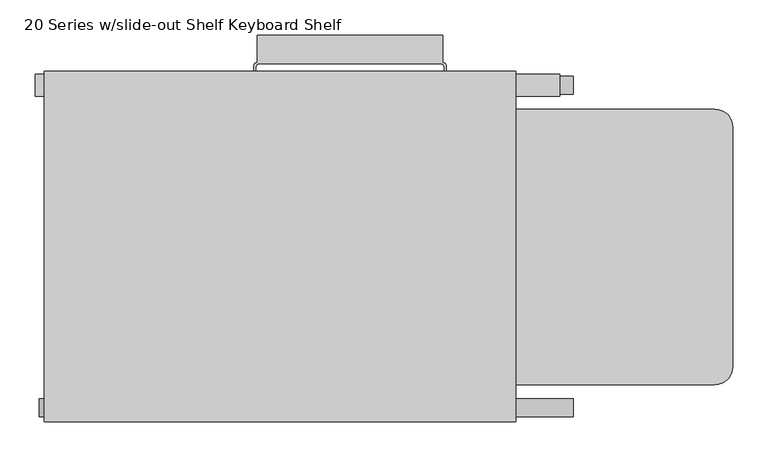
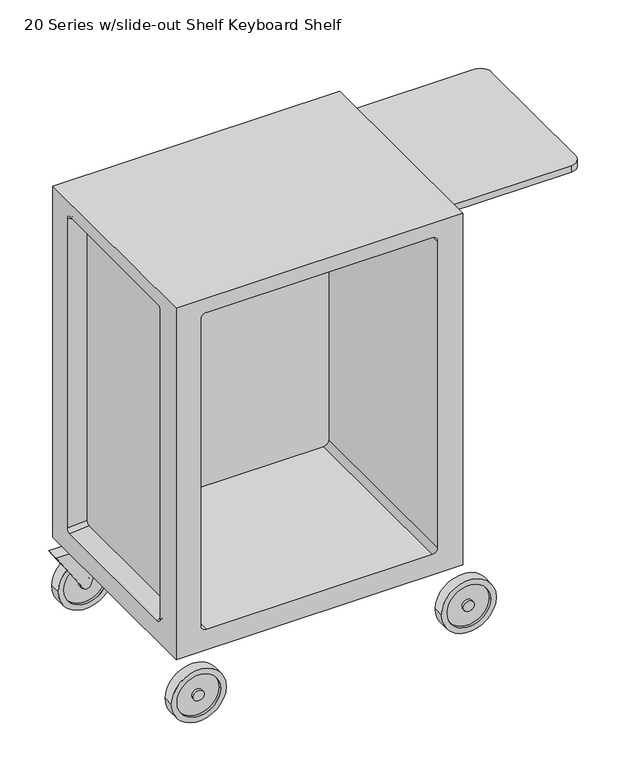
"""IFC4 building model written with IfcOpenShell, lengths in millimetres: furniture geometry, HermanMiller_Carts_CTT_StorageandTechnologyCart : 20 Series w/slide-out Shelf Keyboard Shelf."""

from ifc_helpers import new_model, si_unit, point, frame, frame_2d, origin, place, context, project, spatial, polyline, circle_curve, trimmed, segment, composite_curve, outline, extrude, faceted_brep, source, transform, mapped, element, save
from ifc_brep_helpers import plane_surface, cylinder_surface, revolved_surface, extruded_surface, spline_surface, advanced_brep


def furniture_20_series_w_slide_out_shelf_keyboard_shelf_b82dab68(model_context):
    return source(origin(), model_context, "Body", "SolidModel", [
        extrude(outline(composite_curve([segment(polyline([(354.251128, 456.6348819), (952.1313951, 456.6348819)]), True, "CONTINUOUS"), segment(trimmed(circle_curve(frame_2d((952.1313951, 431.2348819)), 25.4), [point((952.1313951, 456.6348819))], [point((977.5313951, 431.2348819))], False, "CARTESIAN"), True, "CONTINUOUS"), segment(polyline([(977.5313951, 431.2348819), (977.5313951, 90.951077)]), True, "CONTINUOUS"), segment(trimmed(circle_curve(frame_2d((952.1313951, 90.951077)), 25.4), [point((977.5313951, 90.951077))], [point((952.1313951, 65.551077))], False, "CARTESIAN"), True, "CONTINUOUS"), segment(polyline([(952.1313951, 65.551077), (354.251128, 65.551077)]), True, "CONTINUOUS"), segment(trimmed(circle_curve(frame_2d((354.251128, 90.951077)), 25.4), [point((354.251128, 65.551077))], [point((328.851128, 90.951077))], False, "CARTESIAN"), True, "CONTINUOUS"), segment(polyline([(328.851128, 90.951077), (328.851128, 431.2348819)]), True, "CONTINUOUS"), segment(trimmed(circle_curve(frame_2d((354.251128, 431.2348819)), 25.4), [point((328.851128, 431.2348819))], [point((354.251128, 456.6348819))], False, "CARTESIAN"), True, "CONTINUOUS")], self_intersect=False)), frame((0.0, 0.0, 1011.0544959), z_axis=(0.0, 0.0, 1.0), x_axis=(1.0, 0.0, 0.0)), (0.0, 0.0, 1.0), 16.1038115),
        advanced_brep(
        [(61.4649417, 500.551024, 934.1645639), (606.8845683, 500.551024, 934.1645639), (606.8845683, 500.551024, 963.6285358), (61.4649417, 500.551024, 963.6285358), (58.2929989, 510.7872451, 934.1645639), (297.8227224, 510.7872451, 934.1645639), (297.8227224, 504.9452325, 934.1645639), (300.36272, 504.9452325, 934.1645639), (300.36272, 510.7872451, 934.1645639), (568.0584077, 510.7872451, 934.1645639), (568.0584077, 504.9452325, 934.1645639), (570.598369, 504.9452325, 934.1645639), (570.598369, 510.7872451, 934.1645639), (610.1259708, 510.7872451, 934.1645639), (297.8227224, 510.7872451, 963.6285358), (58.2929989, 510.7872451, 963.6285358), (610.1259708, 510.7872451, 963.6285358), (570.598369, 510.7872451, 963.6285358), (570.598369, 504.9452325, 963.6285358), (568.0584077, 504.9452325, 963.6285358), (568.0584077, 510.7872451, 963.6285358), (300.36272, 510.7872451, 963.6285358), (300.36272, 504.9452325, 963.6285358), (297.8227224, 504.9452325, 963.6285358), (566.0365835, 561.7040863, 974.296562), (302.3845442, 561.7040863, 974.296562), (302.3845442, 523.6040672, 974.296562), (299.1588407, 522.267937, 974.296562), (297.8227224, 519.042262, 974.296562), (297.8227224, 504.9452325, 974.296562), (300.36272, 504.9452325, 974.296562), (300.36272, 516.5022562, 974.296562), (301.6988407, 519.727937, 974.296562), (304.9245086, 521.0640524, 974.296562), (563.4965889, 521.0640524, 974.296562), (566.7222567, 519.727937, 974.296562), (568.0584077, 516.5021831, 974.296562), (568.0584077, 504.9452325, 974.296562), (570.598369, 504.9452325, 974.296562), (570.598369, 519.0422767, 974.296562), (569.2622567, 522.267937, 974.296562), (566.0365835, 523.6040546, 974.296562), (566.0365835, 561.7040863, 923.1507013), (566.0365835, 523.6040546, 923.1507013), (569.2622567, 522.267937, 923.1507013), (570.598369, 519.0422767, 923.1507013), (570.598369, 504.9452325, 923.1507013), (568.0584077, 504.9452325, 923.1507013), (568.0584077, 516.5021831, 923.1507013), (566.7222567, 519.727937, 923.1507013), (563.4965889, 521.0640524, 923.1507013), (304.9245086, 521.0640524, 923.1507013), (301.6988407, 519.727937, 923.1507013), (300.36272, 516.5022562, 923.1507013), (300.36272, 504.9452325, 923.1507013), (297.8227224, 504.9452325, 923.1507013), (297.8227224, 519.042262, 923.1507013), (299.1588407, 522.267937, 923.1507013), (302.3845442, 523.6040672, 923.1507013), (302.3845442, 561.7040863, 923.1507013), (352.9211458, 523.6040863, 923.1507013), (352.9211458, 526.1440863, 923.1507013), (313.560576, 526.1440863, 923.1507013), (313.560576, 523.6040863, 923.1507013), (0.0, 13.1902196, 173.0537902), (669.1809417, 13.1902196, 173.0537902), (669.1809417, 13.1902196, 1039.8287539), (0.0, 13.1902196, 1039.8287539), (70.9929989, 13.1902196, 223.8537962), (58.2929989, 13.1902196, 236.5537962), (58.2929989, 13.1902196, 992.2037781), (70.9929989, 13.1902196, 1004.9037781), (597.4259708, 13.1902196, 1004.9037781), (610.1259708, 13.1902196, 992.2037781), (610.1259708, 13.1902196, 236.5537962), (597.4259708, 13.1902196, 223.8537962), (0.0, 510.7872451, 173.0537902), (0.0, 510.7872451, 1039.8287539), (669.1809417, 510.7872451, 1039.8287539), (669.1809417, 510.7872451, 173.0537902), (58.2929989, 510.7872451, 236.5537962), (70.9929989, 510.7872451, 223.8537962), (597.4259708, 510.7872451, 223.8537962), (610.1259708, 510.7872451, 236.5537962), (610.1259708, 510.7872451, 992.2037781), (597.4259708, 510.7872451, 1004.9037781), (70.9929989, 510.7872451, 1004.9037781), (58.2929989, 510.7872451, 992.2037781), (669.1809417, 442.9470837, 987.082132), (669.1809417, 442.9470837, 241.6754167), (669.1809417, 434.0570837, 232.7854167), (669.1809417, 97.1966302, 232.7854167), (669.1809417, 88.3066302, 241.6754167), (669.1809417, 88.3066302, 987.082132), (669.1809417, 97.1966302, 995.972132), (669.1809417, 434.0570837, 995.972132), (0.0, 451.8787042, 232.7437962), (0.0, 451.8787042, 996.0137781), (0.0, 442.9887042, 1004.9037781), (0.0, 88.264997, 1004.9037781), (0.0, 79.374997, 996.0137781), (0.0, 79.374997, 232.7437962), (0.0, 88.264997, 223.8537962), (0.0, 442.9887042, 223.8537962), (70.9929989, 451.8787042, 223.8537962), (58.2929989, 451.8787042, 236.5537962), (58.2929989, 451.8787042, 992.2037781), (70.9929989, 451.8787042, 1004.9037781), (597.4259708, 451.8787042, 1004.9037781), (610.1259708, 451.8787042, 992.2037781), (610.1259708, 451.8787042, 236.5537962), (597.4259708, 451.8787042, 223.8537962), (38.7413086, 439.1787163, 245.4437841), (38.7413086, 430.2887163, 236.5537841), (38.7413086, 100.965003, 236.5537841), (38.7413086, 92.075003, 245.4437841), (38.7413086, 92.075003, 983.3137539), (38.7413086, 100.965003, 992.2037539), (38.7413086, 430.2887163, 992.2037539), (38.7413086, 439.1787163, 983.3137539), (352.9211458, 523.6040863, 840.3115717), (313.560576, 523.6040863, 840.3115717), (313.560576, 526.1440863, 840.3115717), (350.3811458, 526.1440863, 840.3115717), (350.3811458, 559.1640863, 840.3115717), (308.4711337, 559.1640863, 840.3115717), (308.4711337, 561.7040863, 840.3115717), (352.9211458, 561.7040863, 840.3115717), (352.9211458, 561.7040863, 872.0615232), (352.9211458, 526.1440863, 872.0615232), (313.560576, 523.6040863, 872.0615232), (313.560576, 526.1440863, 872.0615232), (350.3811458, 526.1440863, 872.0615232), (308.4711337, 561.7040863, 872.0615232), (308.4711337, 559.1640863, 872.0615232), (350.3811458, 559.1640863, 872.0615232), (631.0883758, 439.1787163, 245.4437841), (631.0883758, 439.1787163, 983.3137539), (631.0883758, 430.2887163, 992.2037539), (631.0883758, 100.965003, 992.2037539), (631.0883758, 92.075003, 983.3137539), (631.0883758, 92.075003, 245.4437841), (631.0883758, 100.965003, 236.5537841), (631.0883758, 430.2887163, 236.5537841), (590.9293305, 470.2181007, 236.5537841), (77.2143409, 470.2181007, 236.5537841), (70.8643378, 470.2181007, 242.9037872), (70.8643378, 470.2181007, 985.8537508), (77.2143409, 470.2181007, 992.2037539), (590.9293668, 470.2181007, 992.2037539), (597.2793426, 470.2181007, 985.8537781), (597.2793426, 470.2181007, 242.9037962)],
        [
            (0, 1),
            (1, 2),
            (2, 3),
            (3, 0),
            (4, 5),
            (5, 6),
            (6, 7),
            (7, 8),
            (8, 9),
            (9, 10),
            (10, 11),
            (11, 12),
            (12, 13),
            (13, 1),
            (0, 4),
            (14, 15),
            (15, 3),
            (2, 16),
            (16, 17),
            (17, 18),
            (18, 19),
            (19, 20),
            (20, 21),
            (21, 22),
            (22, 23),
            (23, 14),
            (24, 25),
            (25, 26),
            (26, 27),
            (27, 28),
            (28, 29),
            (29, 30),
            (30, 31),
            (31, 32),
            (32, 33),
            (33, 34),
            (34, 35),
            (35, 36),
            (36, 37),
            (37, 38),
            (38, 39),
            (39, 40),
            (40, 41),
            (41, 24),
            (42, 43),
            (43, 44),
            (44, 45),
            (45, 46),
            (46, 47),
            (47, 48),
            (48, 49),
            (49, 50),
            (50, 51),
            (51, 52),
            (52, 53),
            (53, 54),
            (54, 55),
            (55, 56),
            (56, 57),
            (57, 58),
            (58, 59),
            (59, 42),
            (60, 61),
            (61, 62),
            (62, 63),
            (63, 60),
            (24, 42),
            (59, 25),
            (58, 26),
            (57, 27),
            (56, 28),
            (55, 6),
            (5, 14),
            (23, 29),
            (22, 30),
            (54, 7),
            (21, 8),
            (53, 31),
            (52, 32),
            (51, 33),
            (50, 34),
            (49, 35),
            (48, 36),
            (47, 10),
            (9, 20),
            (19, 37),
            (18, 38),
            (46, 11),
            (17, 12),
            (45, 39),
            (44, 40),
            (43, 41),
            (64, 65),
            (65, 66),
            (66, 67),
            (67, 64),
            (68, 69, circle_curve(frame((70.9929989, 13.1902196, 236.5537962), z_axis=(0.0, 1.0, 0.0), x_axis=(1.0, 0.0, 0.0)), 12.7)),
            (69, 70),
            (70, 71, circle_curve(frame((70.9929989, 13.1902196, 992.2037781), z_axis=(0.0, 1.0, 0.0), x_axis=(1.0, 0.0, 0.0)), 12.7)),
            (71, 72),
            (72, 73, circle_curve(frame((597.4259708, 13.1902196, 992.2037781), z_axis=(0.0, 1.0, 0.0), x_axis=(1.0, 0.0, 0.0)), 12.7)),
            (73, 74),
            (74, 75, circle_curve(frame((597.4259708, 13.1902196, 236.5537962), z_axis=(0.0, 1.0, 0.0), x_axis=(1.0, 0.0, 0.0)), 12.7)),
            (75, 68),
            (76, 77),
            (77, 78),
            (78, 79),
            (79, 76),
            (4, 80),
            (80, 81, circle_curve(frame((70.9929989, 510.7872451, 236.5537962), z_axis=(0.0, -1.0, 0.0), x_axis=(1.0, 0.0, 0.0)), 12.7)),
            (81, 82),
            (82, 83, circle_curve(frame((597.4259708, 510.7872451, 236.5537962), z_axis=(0.0, -1.0, 0.0), x_axis=(1.0, 0.0, 0.0)), 12.7)),
            (83, 13),
            (16, 84),
            (84, 85, circle_curve(frame((597.4259708, 510.7872451, 992.2037781), z_axis=(0.0, -1.0, 0.0), x_axis=(1.0, 0.0, 0.0)), 12.7)),
            (85, 86),
            (86, 87, circle_curve(frame((70.9929989, 510.7872451, 992.2037781), z_axis=(0.0, -1.0, 0.0), x_axis=(1.0, 0.0, 0.0)), 12.7)),
            (87, 15),
            (64, 76),
            (79, 65),
            (78, 66),
            (88, 89),
            (89, 90, circle_curve(frame((669.1809417, 434.0570837, 241.6754167), z_axis=(-1.0, 0.0, 0.0), x_axis=(0.0, 1.0, 0.0)), 8.89)),
            (90, 91),
            (91, 92, circle_curve(frame((669.1809417, 97.1966302, 241.6754167), z_axis=(-1.0, 0.0, 0.0), x_axis=(0.0, 1.0, 0.0)), 8.89)),
            (92, 93),
            (93, 94, circle_curve(frame((669.1809417, 97.1966302, 987.082132), z_axis=(-1.0, 0.0, 0.0), x_axis=(0.0, 1.0, 0.0)), 8.89)),
            (94, 95),
            (95, 88, circle_curve(frame((669.1809417, 434.0570837, 987.082132), z_axis=(-1.0, 0.0, 0.0), x_axis=(0.0, 1.0, 0.0)), 8.89)),
            (77, 67),
            (96, 97),
            (97, 98, circle_curve(frame((0.0, 442.9887042, 996.0137781), z_axis=(1.0, 0.0, 0.0), x_axis=(0.0, 1.0, 0.0)), 8.89)),
            (98, 99),
            (99, 100, circle_curve(frame((0.0, 88.264997, 996.0137781), z_axis=(1.0, 0.0, 0.0), x_axis=(0.0, 1.0, 0.0)), 8.89)),
            (100, 101),
            (101, 102, circle_curve(frame((0.0, 88.264997, 232.7437962), z_axis=(1.0, 0.0, 0.0), x_axis=(0.0, 1.0, 0.0)), 8.89)),
            (102, 103),
            (103, 96, circle_curve(frame((0.0, 442.9887042, 232.7437962), z_axis=(1.0, 0.0, 0.0), x_axis=(0.0, 1.0, 0.0)), 8.89)),
            (68, 104),
            (104, 105, circle_curve(frame((70.9929989, 451.8787042, 236.5537962), z_axis=(0.0, 1.0, 0.0), x_axis=(1.0, 0.0, 0.0)), 12.7)),
            (105, 69),
            (105, 106),
            (106, 70),
            (106, 107, circle_curve(frame((70.9929989, 451.8787042, 992.2037781), z_axis=(0.0, 1.0, 0.0), x_axis=(1.0, 0.0, 0.0)), 12.7)),
            (107, 71),
            (107, 108),
            (108, 72),
            (108, 109, circle_curve(frame((597.4259708, 451.8787042, 992.2037781), z_axis=(0.0, 1.0, 0.0), x_axis=(1.0, 0.0, 0.0)), 12.7)),
            (109, 73),
            (109, 110),
            (110, 74),
            (110, 111, circle_curve(frame((597.4259708, 451.8787042, 236.5537962), z_axis=(0.0, 1.0, 0.0), x_axis=(1.0, 0.0, 0.0)), 12.7)),
            (111, 75),
            (111, 104),
            (112, 113, circle_curve(frame((38.7413086, 430.2887163, 245.4437841), z_axis=(-1.0, 0.0, 0.0), x_axis=(0.0, 1.0, 0.0)), 8.89)),
            (113, 114),
            (114, 115, circle_curve(frame((38.7413086, 100.965003, 245.4437841), z_axis=(-1.0, 0.0, 0.0), x_axis=(0.0, 1.0, 0.0)), 8.89)),
            (115, 116),
            (116, 117, circle_curve(frame((38.7413086, 100.965003, 983.3137539), z_axis=(-1.0, 0.0, 0.0), x_axis=(0.0, 1.0, 0.0)), 8.89)),
            (117, 118),
            (118, 119, circle_curve(frame((38.7413086, 430.2887163, 983.3137539), z_axis=(-1.0, 0.0, 0.0), x_axis=(0.0, 1.0, 0.0)), 8.89)),
            (119, 112),
            (119, 97),
            (96, 112),
            (118, 98),
            (117, 99),
            (116, 100),
            (115, 101),
            (114, 102),
            (113, 103),
            (120, 121),
            (121, 122),
            (122, 123),
            (123, 124),
            (124, 125),
            (125, 126),
            (126, 127),
            (127, 120),
            (60, 120),
            (127, 128),
            (128, 129),
            (129, 61),
            (63, 130),
            (130, 121),
            (62, 131),
            (131, 122),
            (129, 132),
            (132, 123),
            (133, 134),
            (134, 135),
            (135, 132),
            (128, 133),
            (126, 133),
            (135, 124),
            (134, 125),
            (136, 137),
            (137, 138, circle_curve(frame((631.0883758, 430.2887163, 983.3137539), z_axis=(1.0, 0.0, 0.0), x_axis=(0.0, 1.0, 0.0)), 8.89)),
            (138, 139),
            (139, 140, circle_curve(frame((631.0883758, 100.965003, 983.3137539), z_axis=(1.0, 0.0, 0.0), x_axis=(0.0, 1.0, 0.0)), 8.89)),
            (140, 141),
            (141, 142, circle_curve(frame((631.0883758, 100.965003, 245.4437841), z_axis=(1.0, 0.0, 0.0), x_axis=(0.0, 1.0, 0.0)), 8.89)),
            (142, 143),
            (143, 136, circle_curve(frame((631.0883758, 430.2887163, 245.4437841), z_axis=(1.0, 0.0, 0.0), x_axis=(0.0, 1.0, 0.0)), 8.89)),
            (136, 89),
            (88, 137),
            (95, 138),
            (94, 139),
            (93, 140),
            (92, 141),
            (91, 142),
            (90, 143),
            (144, 145),
            (145, 146, circle_curve(frame((77.2143409, 470.2181007, 242.9037872), z_axis=(0.0, 1.0, 0.0), x_axis=(1.0, 0.0, 0.0)), 6.350003)),
            (146, 147),
            (147, 148, circle_curve(frame((77.2143409, 470.2181007, 985.8537508), z_axis=(0.0, 1.0, 0.0), x_axis=(1.0, 0.0, 0.0)), 6.350003)),
            (148, 149),
            (149, 150, circle_curve(frame((590.9293668, 470.2181007, 985.8537781), z_axis=(0.0, 1.0, 0.0), x_axis=(1.0, 0.0, 0.0)), 6.3499758)),
            (150, 151),
            (151, 144, circle_curve(frame((590.9293305, 470.2181007, 242.9037962), z_axis=(0.0, 1.0, 0.0), x_axis=(1.0, 0.0, 0.0)), 6.3500121)),
            (151, 83),
            (82, 144),
            (150, 84),
            (149, 85),
            (148, 86),
            (147, 87),
            (146, 80),
            (145, 81),
        ],
        [
            plane_surface(frame((58.2929989, 500.551024, 236.5537962), z_axis=(0.0, -1.0, 0.0), x_axis=(0.0, 0.0, -1.0))),
            plane_surface(frame((58.2929989, 500.551024, 934.1645639), z_axis=(0.0, 0.0, -1.0), x_axis=(0.0, 1.0, 0.0))),
            plane_surface(frame((610.1259708, 500.551024, 963.6285358), z_axis=(0.0, 0.0, 1.0), x_axis=(0.0, 1.0, 0.0))),
            plane_surface(frame((302.3845442, 561.7040863, 974.296562), z_axis=(0.0, 0.0, 1.0), x_axis=(-1.0, 0.0, 0.0))),
            plane_surface(frame((302.3845442, 561.7040863, 923.1507013), z_axis=(0.0, 0.0, -1.0), x_axis=(1.0, 0.0, 0.0))),
            plane_surface(frame((566.0365835, 561.7040863, 974.296562), z_axis=(0.0, 1.0, 0.0), x_axis=(0.0, 0.0, -1.0))),
            plane_surface(frame((302.3845442, 561.7040863, 974.296562), z_axis=(-1.0, 0.0, 0.0), x_axis=(0.0, 0.0, -1.0))),
            plane_surface(frame((302.3845442, 523.6040672, 974.296562), z_axis=(-0.3826834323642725, 0.9238795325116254, 0.0), x_axis=(0.0, 0.0, -1.0))),
            plane_surface(frame((299.1588407, 522.267937, 974.296562), z_axis=(-0.9238795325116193, 0.38268343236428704, 0.0), x_axis=(0.0, 0.0, -1.0))),
            plane_surface(frame((297.8227224, 519.042262, 974.296562), z_axis=(-1.0, 0.0, 0.0), x_axis=(0.0, 0.0, -1.0))),
            plane_surface(frame((297.8227224, 504.9452325, 974.296562), z_axis=(0.0, -1.0, 0.0), x_axis=(0.0, 0.0, -1.0))),
            plane_surface(frame((300.36272, 504.9452325, 974.296562), z_axis=(1.0, 0.0, 0.0), x_axis=(0.0, 0.0, -1.0))),
            plane_surface(frame((300.36272, 516.5022562, 974.296562), z_axis=(0.9238795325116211, -0.3826834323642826, 0.0), x_axis=(0.0, 0.0, -1.0))),
            plane_surface(frame((301.6988407, 519.727937, 974.296562), z_axis=(0.38268343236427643, -0.9238795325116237, 0.0), x_axis=(0.0, 0.0, -1.0))),
            plane_surface(frame((304.9245086, 521.0640524, 974.296562), z_axis=(0.0, -1.0, 0.0), x_axis=(0.0, 0.0, -1.0))),
            plane_surface(frame((563.4965889, 521.0640524, 974.296562), z_axis=(-0.38268343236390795, -0.9238795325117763, 0.0), x_axis=(0.0, 0.0, -1.0))),
            plane_surface(frame((566.7222567, 519.727937, 974.296562), z_axis=(-0.9238795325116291, -0.3826834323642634, 0.0), x_axis=(0.0, 0.0, -1.0))),
            plane_surface(frame((568.0584077, 516.5021831, 974.296562), z_axis=(-1.0, 0.0, 0.0), x_axis=(0.0, 0.0, -1.0))),
            plane_surface(frame((568.0584077, 504.9452325, 974.296562), z_axis=(0.0, -1.0, 0.0), x_axis=(0.0, 0.0, -1.0))),
            plane_surface(frame((570.598369, 504.9452325, 974.296562), z_axis=(1.0, 0.0, 0.0), x_axis=(0.0, 0.0, -1.0))),
            plane_surface(frame((570.598369, 519.0422767, 974.296562), z_axis=(0.9238795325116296, 0.38268343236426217, 0.0), x_axis=(0.0, 0.0, -1.0))),
            plane_surface(frame((569.2622567, 522.267937, 974.296562), z_axis=(0.3826834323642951, 0.923879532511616, 0.0), x_axis=(0.0, 0.0, -1.0))),
            plane_surface(frame((566.0365835, 523.6040546, 974.296562), z_axis=(1.0, 0.0, 0.0), x_axis=(0.0, 0.0, -1.0))),
            plane_surface(frame((0.0, 13.1902196, 173.0537902), z_axis=(0.0, -1.0, 0.0), x_axis=(1.0, 0.0, 0.0))),
            plane_surface(frame((0.0, 510.7872451, 173.0537902), z_axis=(0.0, 1.0, 0.0), x_axis=(-1.0, 0.0, 0.0))),
            plane_surface(frame((0.0, 13.1902196, 173.0537902), z_axis=(0.0, 0.0, -1.0), x_axis=(0.0, 1.0, 0.0))),
            plane_surface(frame((669.1809417, 13.1902196, 173.0537902), z_axis=(1.0, 0.0, 0.0), x_axis=(0.0, 1.0, 0.0))),
            plane_surface(frame((669.1809417, 13.1902196, 1039.8287539), z_axis=(0.0, 0.0, 1.0), x_axis=(0.0, 1.0, 0.0))),
            plane_surface(frame((0.0, 13.1902196, 1039.8287539), z_axis=(-1.0, 0.0, 0.0), x_axis=(0.0, 1.0, 0.0))),
            revolved_surface(polyline([(83.6929989, 451.8787042, 236.5537962), (83.6929989, 13.1902196, 236.5537962)]), (70.9929989, 0.0, 236.5537962), (0.0, 1.0, 0.0)),
            plane_surface(frame((58.2929989, 13.1902196, 236.5537962), z_axis=(1.0, 0.0, 0.0), x_axis=(0.0, 1.0, 0.0))),
            revolved_surface(polyline([(83.6929989, 451.8787042, 992.2037781), (83.6929989, 13.1902196, 992.2037781)]), (70.9929989, 0.0, 992.2037781), (0.0, 1.0, 0.0)),
            plane_surface(frame((70.9929989, 13.1902196, 1004.9037781), z_axis=(0.0, 0.0, -1.0), x_axis=(0.0, 1.0, 0.0))),
            revolved_surface(polyline([(610.1259708, 451.8787042, 992.2037781), (610.1259708, 13.1902196, 992.2037781)]), (597.4259708, 0.0, 992.2037781), (0.0, 1.0, 0.0)),
            plane_surface(frame((610.1259708, 13.1902196, 992.2037781), z_axis=(-1.0, 0.0, 0.0), x_axis=(0.0, 1.0, 0.0))),
            revolved_surface(polyline([(610.1259708, 451.8787042, 236.5537962), (610.1259708, 13.1902196, 236.5537962)]), (597.4259708, 0.0, 236.5537962), (0.0, 1.0, 0.0)),
            plane_surface(frame((597.4259708, 13.1902196, 223.8537962), z_axis=(0.0, 0.0, 1.0), x_axis=(0.0, 1.0, 0.0))),
            plane_surface(frame((38.7413086, 265.6268597, 614.378769), z_axis=(-1.0, 0.0, 0.0), x_axis=(0.0, 0.0, -1.0))),
            plane_surface(frame((0.0, 451.8787042, 614.3787872), z_axis=(-0.3115045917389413, -0.9502446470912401, 0.0), x_axis=(0.0, 0.0, 1.0))),
            extruded_surface(trimmed(circle_curve(frame((38.7413086, 430.2887163, 983.3137539), z_axis=(1.0, 0.0, 0.0), x_axis=(0.0, 1.0, 0.0)), 8.89), [point((38.7413086, 439.1787163, 983.3137539))], [point((38.7413086, 430.2887163, 992.2037539))], True, "CARTESIAN"), (-38.7413086, 12.699987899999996, 12.700024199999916), 42.70209947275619),
            plane_surface(frame((0.0, 265.6268506, 1004.9037781), z_axis=(-0.3115053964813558, 0.0, -0.9502443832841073), x_axis=(0.0, -1.0, 0.0))),
            extruded_surface(trimmed(circle_curve(frame((38.7413086, 100.965003, 983.3137539), z_axis=(1.0, 0.0, 0.0), x_axis=(0.0, 1.0, 0.0)), 8.89), [point((38.7413086, 100.965003, 992.2037539))], [point((38.7413086, 92.075003, 983.3137539))], True, "CARTESIAN"), (-38.7413086, -12.700006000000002, 12.700024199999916), 42.702104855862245),
            plane_surface(frame((0.0, 79.374997, 614.3787872), z_axis=(-0.3115049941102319, 0.9502445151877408, 0.0), x_axis=(0.0, 0.0, -1.0))),
            extruded_surface(trimmed(circle_curve(frame((38.7413086, 100.965003, 245.4437841), z_axis=(1.0, 0.0, 0.0), x_axis=(0.0, 1.0, 0.0)), 8.89), [point((38.7413086, 92.075003, 245.4437841))], [point((38.7413086, 100.965003, 236.5537841))], True, "CARTESIAN"), (-38.7413086, -12.700006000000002, -12.699987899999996), 42.702094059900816),
            plane_surface(frame((0.0, 265.6268506, 223.8537962), z_axis=(-0.31150459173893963, 0.0, 0.9502446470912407), x_axis=(0.0, 1.0, 0.0))),
            extruded_surface(trimmed(circle_curve(frame((38.7413086, 430.2887163, 245.4437841), z_axis=(1.0, 0.0, 0.0), x_axis=(0.0, 1.0, 0.0)), 8.89), [point((38.7413086, 430.2887163, 236.5537841))], [point((38.7413086, 439.1787163, 245.4437841))], True, "CARTESIAN"), (-38.7413086, 12.699987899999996, -12.699987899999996), 42.702088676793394),
            plane_surface(frame((352.9211458, 526.1440863, 840.3115717), z_axis=(0.0, 0.0, -1.0), x_axis=(0.0, -1.0, 0.0))),
            plane_surface(frame((352.9211458, 523.6040863, 923.4965378), z_axis=(1.0, 0.0, 0.0), x_axis=(0.0, 0.0, -1.0))),
            plane_surface(frame((313.560576, 523.6040863, 923.4965378), z_axis=(0.0, -1.0, 0.0), x_axis=(0.0, 0.0, -1.0))),
            plane_surface(frame((313.560576, 526.1440863, 923.4965378), z_axis=(-1.0, 0.0, 0.0), x_axis=(0.0, 0.0, -1.0))),
            plane_surface(frame((352.9211458, 526.1440863, 923.4965378), z_axis=(0.0, 1.0, 0.0), x_axis=(0.0, 0.0, -1.0))),
            plane_surface(frame((308.4711337, 559.1640863, 872.0615232), z_axis=(0.0, 0.0, 1.0), x_axis=(0.0, -1.0, 0.0))),
            plane_surface(frame((352.9211458, 561.7040863, 872.0615232), z_axis=(0.0, 1.0, 0.0), x_axis=(0.0, 0.0, -1.0))),
            plane_surface(frame((350.3811458, 559.1640863, 872.0615232), z_axis=(-1.0, 0.0, 0.0), x_axis=(0.0, 0.0, -1.0))),
            plane_surface(frame((308.4711337, 559.1640863, 872.0615232), z_axis=(0.0, -1.0, 0.0), x_axis=(0.0, 0.0, -1.0))),
            plane_surface(frame((308.4711337, 561.7040863, 872.0615232), z_axis=(-1.0, 0.0, 0.0), x_axis=(0.0, 0.0, -1.0))),
            plane_surface(frame((631.0883758, 265.6268597, 614.378769), z_axis=(1.0, 0.0, 0.0), x_axis=(0.0, 0.0, 1.0))),
            plane_surface(frame((759.4662843, 451.8787042, 614.3787872), z_axis=(0.09844603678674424, -0.9951423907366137, 0.0), x_axis=(0.0, 0.0, -1.0))),
            extruded_surface(trimmed(circle_curve(frame((631.0883758, 430.2887163, 983.3137539), z_axis=(-1.0, 0.0, 0.0), x_axis=(0.0, 1.0, 0.0)), 8.89), [point((631.0883758, 430.2887163, 992.2037539))], [point((631.0883758, 439.1787163, 983.3137539))], True, "CARTESIAN"), (128.3779085, 12.699987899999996, 12.700024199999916), 129.62819021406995),
            plane_surface(frame((759.4662843, 265.6268506, 1004.9037781), z_axis=(0.09844631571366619, 0.0, -0.9951423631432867), x_axis=(0.0, 1.0, 0.0))),
            extruded_surface(trimmed(circle_curve(frame((631.0883758, 100.965003, 983.3137539), z_axis=(-1.0, 0.0, 0.0), x_axis=(0.0, 1.0, 0.0)), 8.89), [point((631.0883758, 92.075003, 983.3137539))], [point((631.0883758, 100.965003, 992.2037539))], True, "CARTESIAN"), (128.3779085, -12.700006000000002, 12.700024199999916), 129.62819198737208),
            plane_surface(frame((759.4662843, 79.374997, 614.3787872), z_axis=(0.09844617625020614, 0.99514237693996, 0.0), x_axis=(0.0, 0.0, 1.0))),
            extruded_surface(trimmed(circle_curve(frame((631.0883758, 100.965003, 245.4437841), z_axis=(-1.0, 0.0, 0.0), x_axis=(0.0, 1.0, 0.0)), 8.89), [point((631.0883758, 100.965003, 236.5537841))], [point((631.0883758, 92.075003, 245.4437841))], True, "CARTESIAN"), (128.3779085, -12.700006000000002, -12.699987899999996), 129.62818843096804),
            plane_surface(frame((759.4662843, 265.6268506, 223.8537962), z_axis=(0.09844603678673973, 0.0, 0.9951423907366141), x_axis=(0.0, -1.0, 0.0))),
            extruded_surface(trimmed(circle_curve(frame((631.0883758, 430.2887163, 245.4437841), z_axis=(-1.0, 0.0, 0.0), x_axis=(0.0, 1.0, 0.0)), 8.89), [point((631.0883758, 439.1787163, 245.4437841))], [point((631.0883758, 430.2887163, 236.5537841))], True, "CARTESIAN"), (128.3779085, 12.699987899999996, -12.699987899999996), 129.62818665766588),
            plane_surface(frame((597.4259708, 451.8787042, 223.8537962), z_axis=(0.0, -1.0, 0.0), x_axis=(1.0, 0.0, 0.0))),
            plane_surface(frame((334.0718425, 470.2181007, 614.3787735), z_axis=(0.0, 1.0, 0.0), x_axis=(1.0, 0.0, 0.0))),
            spline_surface(1, 2, [[(597.2793426, 470.2181007, 242.9037962), (597.2793426, 470.2181007, 236.55378410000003), (590.9293305, 470.2181007, 236.5537841)], [(610.1259708, 510.7872451, 236.5537962), (610.1259708, 510.7872451, 223.85379619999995), (597.4259708, 510.7872451, 223.8537962)]], [2, 2], [3, 3], [0.0, 1.0], [0.0, 1.0], weights=[[1.0, 0.7071067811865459, 1.0], [1.0, 0.7071067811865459, 1.0]]),
            plane_surface(frame((597.2793426, 470.2181007, 614.3787872), z_axis=(-0.9533440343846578, 0.30188599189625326, 0.0), x_axis=(0.0, 0.0, -1.0))),
            spline_surface(1, 2, [[(590.9293668, 470.2181007, 992.2037539), (597.2793426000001, 470.2181007, 992.2037539), (597.2793426, 470.2181007, 985.8537781)], [(597.4259708, 510.7872451, 1004.9037781), (610.1259707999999, 510.7872451, 1004.9037780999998), (610.1259708, 510.7872451, 992.2037781)]], [2, 2], [3, 3], [0.0, 1.0], [0.0, 1.0], weights=[[1.0, 0.7071067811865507, 1.0], [1.0, 0.7071067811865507, 1.0]]),
            plane_surface(frame((334.0718538, 470.2181007, 992.2037539), z_axis=(0.0, 0.2987500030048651, -0.9543314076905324), x_axis=(1.0, 0.0, 0.0))),
            spline_surface(1, 2, [[(70.8643378, 470.2181007, 985.8537508), (70.86433779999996, 470.2181007, 992.2037538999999), (77.2143409, 470.2181007, 992.2037539)], [(58.2929989, 510.7872451, 992.2037781), (58.29299889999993, 510.7872451, 1004.9037781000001), (70.9929989, 510.7872451, 1004.9037781)]], [2, 2], [3, 3], [0.0, 1.0], [0.0, 1.0], weights=[[1.0, 0.7071067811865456, 1.0], [1.0, 0.7071067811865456, 1.0]]),
            plane_surface(frame((70.8643378, 470.2181007, 614.378769), z_axis=(0.9551912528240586, 0.2959893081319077, 0.0), x_axis=(0.0, 0.0, 1.0))),
            spline_surface(1, 2, [[(77.2143409, 470.2181007, 236.5537841), (70.86433779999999, 470.2181007, 236.5537841), (70.8643378, 470.2181007, 242.9037872)], [(70.9929989, 510.7872451, 223.8537962), (58.292998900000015, 510.7872451, 223.85379620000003), (58.2929989, 510.7872451, 236.5537962)]], [2, 2], [3, 3], [0.0, 1.0], [0.0, 1.0], weights=[[1.0, 0.7071067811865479, 1.0], [1.0, 0.7071067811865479, 1.0]]),
            plane_surface(frame((334.0718357, 470.2181007, 236.5537841), z_axis=(0.0, 0.29874922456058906, 0.9543316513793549), x_axis=(-1.0, 0.0, 0.0))),
        ],
        [
            (0, [[1, 2, 3, 4]]),
            (1, [[5, 6, 7, 8, 9, 10, 11, 12, 13, 14, -1, 15]]),
            (2, [[16, 17, -3, 18, 19, 20, 21, 22, 23, 24, 25, 26]]),
            (3, [[27, 28, 29, 30, 31, 32, 33, 34, 35, 36, 37, 38, 39, 40, 41, 42, 43, 44]]),
            (4, [[45, 46, 47, 48, 49, 50, 51, 52, 53, 54, 55, 56, 57, 58, 59, 60, 61, 62], [63, 64, 65, 66]]),
            (5, [[-27, 67, -62, 68]]),
            (6, [[-28, -68, -61, 69]]),
            (7, [[-29, -69, -60, 70]]),
            (8, [[-30, -70, -59, 71]]),
            (9, [[-31, -71, -58, 72, -6, 73, -26, 74]]),
            (10, [[-32, -74, -25, 75]]),
            (10, [[-57, 76, -7, -72]]),
            (11, [[-33, -75, -24, 77, -8, -76, -56, 78]]),
            (12, [[-34, -78, -55, 79]]),
            (13, [[-35, -79, -54, 80]]),
            (14, [[-36, -80, -53, 81]]),
            (15, [[-37, -81, -52, 82]]),
            (16, [[-38, -82, -51, 83]]),
            (17, [[-39, -83, -50, 84, -10, 85, -22, 86]]),
            (18, [[-40, -86, -21, 87]]),
            (18, [[-49, 88, -11, -84]]),
            (19, [[-41, -87, -20, 89, -12, -88, -48, 90]]),
            (20, [[-42, -90, -47, 91]]),
            (21, [[-43, -91, -46, 92]]),
            (22, [[-44, -92, -45, -67]]),
            (23, [[93, 94, 95, 96], [97, 98, 99, 100, 101, 102, 103, 104]]),
            (24, [[-23, -85, -9, -77]]),
            (24, [[105, 106, 107, 108], [-16, -73, -5, 109, 110, 111, 112, 113, -13, -89, -19, 114, 115, 116, 117, 118]]),
            (25, [[-93, 119, -108, 120]]),
            (26, [[-94, -120, -107, 121], [122, 123, 124, 125, 126, 127, 128, 129]]),
            (27, [[-95, -121, -106, 130]]),
            (28, [[-96, -130, -105, -119], [131, 132, 133, 134, 135, 136, 137, 138]]),
            (29, [[-97, 139, 140, 141]]),
            (30, [[-98, -141, 142, 143]]),
            (31, [[-99, -143, 144, 145]]),
            (32, [[-100, -145, 146, 147]]),
            (33, [[-101, -147, 148, 149]]),
            (34, [[-102, -149, 150, 151]]),
            (35, [[-103, -151, 152, 153]]),
            (36, [[-104, -153, 154, -139]]),
            (37, [[155, 156, 157, 158, 159, 160, 161, 162]]),
            (38, [[-162, 163, -131, 164]]),
            (39, [[-161, 165, -132, -163]]),
            (40, [[-160, 166, -133, -165]]),
            (41, [[-159, 167, -134, -166]]),
            (42, [[-158, 168, -135, -167]]),
            (43, [[-157, 169, -136, -168]]),
            (44, [[-156, 170, -137, -169]]),
            (45, [[-155, -164, -138, -170]]),
            (46, [[171, 172, 173, 174, 175, 176, 177, 178]]),
            (47, [[-63, 179, -178, 180, 181, 182]]),
            (48, [[-171, -179, -66, 183, 184]]),
            (49, [[-172, -184, -183, -65, 185, 186]]),
            (50, [[-64, -182, 187, 188, -173, -186, -185]]),
            (51, [[189, 190, 191, -187, -181, 192]]),
            (52, [[-192, -180, -177, 193]]),
            (53, [[-191, 194, -174, -188]]),
            (54, [[-190, 195, -175, -194]]),
            (55, [[-189, -193, -176, -195]]),
            (56, [[196, 197, 198, 199, 200, 201, 202, 203]]),
            (57, [[-196, 204, -122, 205]]),
            (58, [[-197, -205, -129, 206]]),
            (59, [[-198, -206, -128, 207]]),
            (60, [[-199, -207, -127, 208]]),
            (61, [[-200, -208, -126, 209]]),
            (62, [[-201, -209, -125, 210]]),
            (63, [[-202, -210, -124, 211]]),
            (64, [[-203, -211, -123, -204]]),
            (65, [[-140, -154, -152, -150, -148, -146, -144, -142]]),
            (66, [[212, 213, 214, 215, 216, 217, 218, 219]]),
            (67, [[-219, 220, -112, 221]]),
            (68, [[-218, 222, -114, -18, -2, -14, -113, -220]]),
            (69, [[-217, 223, -115, -222]]),
            (70, [[-216, 224, -116, -223]]),
            (71, [[-215, 225, -117, -224]]),
            (72, [[-214, 226, -109, -15, -4, -17, -118, -225]]),
            (73, [[-213, 227, -110, -226]]),
            (74, [[-212, -221, -111, -227]]),
        ],
    ),
        faceted_brep([(559.9499637, 561.7040863, 872.0615232), (515.4999516, 561.7040863, 872.0615232), (515.4999516, 526.1440863, 872.0615232), (518.0399516, 526.1440863, 872.0615232), (518.0399516, 559.1640863, 872.0615232), (559.9499637, 559.1640863, 872.0615232), (559.9499637, 561.7040863, 840.3115717), (559.9499637, 559.1640863, 840.3115717), (518.0399516, 559.1640863, 840.3115717), (518.0399516, 526.1440863, 840.3115717), (554.8605215, 526.1440863, 840.3115717), (554.8605215, 523.6040863, 840.3115717), (515.4999516, 523.6040863, 840.3115717), (515.4999516, 561.7040863, 840.3115717), (515.4999516, 523.6040863, 923.4965378), (515.4999516, 526.1440863, 923.4965378), (554.8605215, 523.6040863, 923.4965378), (554.8605215, 526.1440863, 923.4965378)], [[[0, 1, 2, 3, 4, 5]], [[6, 7, 8, 9, 10, 11, 12, 13]], [[1, 0, 6, 13]], [[1, 13, 12, 14, 15, 2]], [[14, 12, 11, 16]], [[16, 11, 10, 17]], [[17, 10, 9, 3, 2, 15]], [[4, 3, 9, 8]], [[5, 4, 8, 7]], [[0, 5, 7, 6]], [[14, 16, 17, 15]]]),
        extrude(outline(composite_curve([segment(trimmed(circle_curve(frame_2d((60.3920885, 687.3348255)), 12.6999984), [point((60.3920885, 674.6348271))], [point((60.3920885, 700.0348238))], False, "CARTESIAN"), True, "CONTINUOUS"), segment(trimmed(circle_curve(frame_2d((60.3920885, 687.3348255)), 12.6999984), [point((60.3920885, 700.0348238))], [point((60.3920885, 674.6348271))], False, "CARTESIAN"), True, "CONTINUOUS")], self_intersect=False)), frame((0.0, 478.1086802, 0.0), z_axis=(0.0, 1.0, 0.0), x_axis=(0.0, 0.0, 1.0)), (0.0, 0.0, 1.0), 25.4000008),
        extrude(outline(composite_curve([segment(trimmed(circle_curve(frame_2d((60.3920873, 687.3348248)), 50.7999973), [point((60.3920873, 636.5348275))], [point((60.3920873, 738.134822))], False, "CARTESIAN"), True, "CONTINUOUS"), segment(trimmed(circle_curve(frame_2d((60.3920873, 687.3348248)), 50.7999973), [point((60.3920873, 738.134822))], [point((60.3920873, 636.5348275))], False, "CARTESIAN"), True, "CONTINUOUS")], self_intersect=False)), frame((0.0, 484.4586786, 0.0), z_axis=(0.0, 1.0, 0.0), x_axis=(0.0, 0.0, 1.0)), (0.0, 0.0, 1.0), 12.6999992),
        extrude(outline(composite_curve([segment(trimmed(circle_curve(frame_2d((60.3920873, 687.3348248)), 63.871924), [point((60.3920873, 623.4629008))], [point((60.3920873, 751.2067487))], False, "CARTESIAN"), True, "CONTINUOUS"), segment(trimmed(circle_curve(frame_2d((60.3920873, 687.3348248)), 63.871924), [point((60.3920873, 751.2067487))], [point((60.3920873, 623.4629008))], False, "CARTESIAN"), True, "CONTINUOUS")], self_intersect=False), holes=[composite_curve([segment(trimmed(circle_curve(frame_2d((60.3920873, 687.3348248)), 50.7999973), [point((60.3920873, 636.5348275))], [point((60.3920873, 738.134822))], True, "CARTESIAN"), True, "CONTINUOUS"), segment(trimmed(circle_curve(frame_2d((60.3920873, 687.3348248)), 50.7999973), [point((60.3920873, 738.134822))], [point((60.3920873, 636.5348275))], True, "CARTESIAN"), True, "CONTINUOUS")], self_intersect=False)]), frame((0.0, 478.1086802, 0.0), z_axis=(0.0, 1.0, 0.0), x_axis=(0.0, 0.0, 1.0)), (0.0, 0.0, 1.0), 25.4000008),
        extrude(outline(composite_curve([segment(trimmed(circle_curve(frame_2d((60.3920885, 57.1500007)), 12.6999984), [point((60.3920885, 44.4500023))], [point((60.3920885, 69.8499991))], False, "CARTESIAN"), True, "CONTINUOUS"), segment(trimmed(circle_curve(frame_2d((60.3920885, 57.1500007)), 12.6999984), [point((60.3920885, 69.8499991))], [point((60.3920885, 44.4500023))], False, "CARTESIAN"), True, "CONTINUOUS")], self_intersect=False)), frame((0.0, 478.1086802, 0.0), z_axis=(0.0, 1.0, 0.0), x_axis=(0.0, 0.0, 1.0)), (0.0, 0.0, 1.0), 25.4000008),
        extrude(outline(composite_curve([segment(trimmed(circle_curve(frame_2d((60.3920873, 57.15)), 50.7999973), [point((60.3920873, 6.3500027))], [point((60.3920873, 107.9499973))], False, "CARTESIAN"), True, "CONTINUOUS"), segment(trimmed(circle_curve(frame_2d((60.3920873, 57.15)), 50.7999973), [point((60.3920873, 107.9499973))], [point((60.3920873, 6.3500027))], False, "CARTESIAN"), True, "CONTINUOUS")], self_intersect=False)), frame((0.0, 484.4586786, 0.0), z_axis=(0.0, 1.0, 0.0), x_axis=(0.0, 0.0, 1.0)), (0.0, 0.0, 1.0), 12.6999992),
        extrude(outline(composite_curve([segment(trimmed(circle_curve(frame_2d((60.3920873, 57.15)), 63.871924), [point((60.3920873, -6.721924))], [point((60.3920873, 121.021924))], False, "CARTESIAN"), True, "CONTINUOUS"), segment(trimmed(circle_curve(frame_2d((60.3920873, 57.15)), 63.871924), [point((60.3920873, 121.021924))], [point((60.3920873, -6.721924))], False, "CARTESIAN"), True, "CONTINUOUS")], self_intersect=False), holes=[composite_curve([segment(trimmed(circle_curve(frame_2d((60.3920873, 57.15)), 50.7999973), [point((60.3920873, 6.3500027))], [point((60.3920873, 107.9499973))], True, "CARTESIAN"), True, "CONTINUOUS"), segment(trimmed(circle_curve(frame_2d((60.3920873, 57.15)), 50.7999973), [point((60.3920873, 107.9499973))], [point((60.3920873, 6.3500027))], True, "CARTESIAN"), True, "CONTINUOUS")], self_intersect=False)]), frame((0.0, 478.1086802, 0.0), z_axis=(0.0, 1.0, 0.0), x_axis=(0.0, 0.0, 1.0)), (0.0, 0.0, 1.0), 25.4000008),
        extrude(outline(composite_curve([segment(trimmed(circle_curve(frame_2d((60.3920885, 687.3348255)), 12.6999984), [point((60.3920885, 674.6348271))], [point((60.3920885, 700.0348238))], False, "CARTESIAN"), True, "CONTINUOUS"), segment(trimmed(circle_curve(frame_2d((60.3920885, 687.3348255)), 12.6999984), [point((60.3920885, 700.0348238))], [point((60.3920885, 674.6348271))], False, "CARTESIAN"), True, "CONTINUOUS")], self_intersect=False)), frame((0.0, 20.3200011, 0.0), z_axis=(0.0, 1.0, 0.0), x_axis=(0.0, 0.0, 1.0)), (0.0, 0.0, 1.0), 25.4000008),
        extrude(outline(composite_curve([segment(trimmed(circle_curve(frame_2d((60.3920873, 687.3348248)), 50.7999973), [point((60.3920873, 636.5348275))], [point((60.3920873, 738.134822))], False, "CARTESIAN"), True, "CONTINUOUS"), segment(trimmed(circle_curve(frame_2d((60.3920873, 687.3348248)), 50.7999973), [point((60.3920873, 738.134822))], [point((60.3920873, 636.5348275))], False, "CARTESIAN"), True, "CONTINUOUS")], self_intersect=False)), frame((0.0, 26.6699995, 0.0), z_axis=(0.0, 1.0, 0.0), x_axis=(0.0, 0.0, 1.0)), (0.0, 0.0, 1.0), 12.6999992),
        extrude(outline(composite_curve([segment(trimmed(circle_curve(frame_2d((60.3920873, 687.3348248)), 63.871924), [point((60.3920873, 623.4629008))], [point((60.3920873, 751.2067487))], False, "CARTESIAN"), True, "CONTINUOUS"), segment(trimmed(circle_curve(frame_2d((60.3920873, 687.3348248)), 63.871924), [point((60.3920873, 751.2067487))], [point((60.3920873, 623.4629008))], False, "CARTESIAN"), True, "CONTINUOUS")], self_intersect=False), holes=[composite_curve([segment(trimmed(circle_curve(frame_2d((60.3920873, 687.3348248)), 50.7999973), [point((60.3920873, 636.5348275))], [point((60.3920873, 738.134822))], True, "CARTESIAN"), True, "CONTINUOUS"), segment(trimmed(circle_curve(frame_2d((60.3920873, 687.3348248)), 50.7999973), [point((60.3920873, 738.134822))], [point((60.3920873, 636.5348275))], True, "CARTESIAN"), True, "CONTINUOUS")], self_intersect=False)]), frame((0.0, 20.3200011, 0.0), z_axis=(0.0, 1.0, 0.0), x_axis=(0.0, 0.0, 1.0)), (0.0, 0.0, 1.0), 25.4000008),
        extrude(outline(composite_curve([segment(trimmed(circle_curve(frame_2d((60.3920885, 57.1500007)), 12.6999984), [point((60.3920885, 44.4500023))], [point((60.3920885, 69.8499991))], False, "CARTESIAN"), True, "CONTINUOUS"), segment(trimmed(circle_curve(frame_2d((60.3920885, 57.1500007)), 12.6999984), [point((60.3920885, 69.8499991))], [point((60.3920885, 44.4500023))], False, "CARTESIAN"), True, "CONTINUOUS")], self_intersect=False)), frame((0.0, 20.3200011, 0.0), z_axis=(0.0, 1.0, 0.0), x_axis=(0.0, 0.0, 1.0)), (0.0, 0.0, 1.0), 25.4000008),
        extrude(outline(composite_curve([segment(trimmed(circle_curve(frame_2d((60.3920873, 57.15)), 50.7999973), [point((60.3920873, 6.3500027))], [point((60.3920873, 107.9499973))], False, "CARTESIAN"), True, "CONTINUOUS"), segment(trimmed(circle_curve(frame_2d((60.3920873, 57.15)), 50.7999973), [point((60.3920873, 107.9499973))], [point((60.3920873, 6.3500027))], False, "CARTESIAN"), True, "CONTINUOUS")], self_intersect=False)), frame((0.0, 26.6699995, 0.0), z_axis=(0.0, 1.0, 0.0), x_axis=(0.0, 0.0, 1.0)), (0.0, 0.0, 1.0), 12.6999992),
        extrude(outline(composite_curve([segment(trimmed(circle_curve(frame_2d((60.3920873, 57.15)), 63.871924), [point((60.3920873, -6.721924))], [point((60.3920873, 121.021924))], False, "CARTESIAN"), True, "CONTINUOUS"), segment(trimmed(circle_curve(frame_2d((60.3920873, 57.15)), 63.871924), [point((60.3920873, 121.021924))], [point((60.3920873, -6.721924))], False, "CARTESIAN"), True, "CONTINUOUS")], self_intersect=False), holes=[composite_curve([segment(trimmed(circle_curve(frame_2d((60.3920873, 57.15)), 50.7999973), [point((60.3920873, 6.3500027))], [point((60.3920873, 107.9499973))], True, "CARTESIAN"), True, "CONTINUOUS"), segment(trimmed(circle_curve(frame_2d((60.3920873, 57.15)), 50.7999973), [point((60.3920873, 107.9499973))], [point((60.3920873, 6.3500027))], True, "CARTESIAN"), True, "CONTINUOUS")], self_intersect=False)]), frame((0.0, 20.3200011, 0.0), z_axis=(0.0, 1.0, 0.0), x_axis=(0.0, 0.0, 1.0)), (0.0, 0.0, 1.0), 25.4000008),
        advanced_brep(
        [(101.600003, 474.9336559, 147.6537872), (-12.7000004, 474.9336559, 147.6537872), (49.8568056, 474.9336559, 52.1364958), (67.594555, 474.9336559, 54.1932208), (67.594555, 477.8915995, 54.1932208), (49.8568056, 477.8915995, 52.1364958), (-11.036487, 477.8915995, 145.1137872), (100.6758289, 477.8915995, 145.1137872), (101.600003, 506.4666018, 147.6537872), (-12.7000004, 506.4666018, 147.6537872), (49.8568056, 506.4666018, 52.1364958), (49.8568056, 503.5086582, 52.1364958), (-11.036487, 503.5086559, 145.1137872), (100.6758289, 503.5086559, 145.1137872), (67.594555, 503.5086582, 54.1932208), (67.594555, 506.4666018, 54.1932208)],
        [
            (0, 1),
            (1, 2),
            (2, 3, circle_curve(frame((58.2105388, 474.9336559, 57.6075771), z_axis=(0.0, -1.0, 0.0), x_axis=(1.0, 0.0, 0.0)), 9.9858695)),
            (3, 0),
            (4, 5, circle_curve(frame((58.2105388, 477.8915995, 57.6075771), z_axis=(0.0, 1.0, 0.0), x_axis=(1.0, 0.0, 0.0)), 9.9858695)),
            (5, 6),
            (6, 7),
            (7, 4),
            (0, 8),
            (8, 9),
            (9, 1),
            (9, 10),
            (10, 11),
            (11, 12),
            (12, 6),
            (5, 2),
            (4, 3),
            (7, 13),
            (13, 14),
            (14, 15),
            (15, 8),
            (12, 13),
            (11, 14, circle_curve(frame((58.2105388, 503.5086582, 57.6075771), z_axis=(0.0, -1.0, 0.0), x_axis=(1.0, 0.0, 0.0)), 9.9858695)),
            (15, 10, circle_curve(frame((58.2105388, 506.4666018, 57.6075771), z_axis=(0.0, 1.0, 0.0), x_axis=(1.0, 0.0, 0.0)), 9.9858695)),
        ],
        [
            plane_surface(frame((101.600003, 474.9336559, 147.6537872), z_axis=(0.0, -1.0, 0.0), x_axis=(-1.0, 0.0, 0.0))),
            plane_surface(frame((101.600003, 477.8915995, 147.6537872), z_axis=(0.0, 1.0, 0.0), x_axis=(1.0, 0.0, 0.0))),
            plane_surface(frame((101.600003, 474.9336559, 147.6537872), z_axis=(0.0, 0.0, 1.0), x_axis=(0.0, 1.0, 0.0))),
            plane_surface(frame((-12.7000004, 474.9336559, 147.6537872), z_axis=(-0.8365554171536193, 0.0, -0.5478823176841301), x_axis=(0.0, 1.0, 0.0))),
            cylinder_surface(frame((58.2105388, 477.8915995, 57.6075771), z_axis=(0.0, -1.0, 0.0), x_axis=(1.0, 0.0, 0.0)), 9.9858695),
            plane_surface(frame((67.594555, 474.9336559, 54.1932208), z_axis=(0.9397295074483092, 0.0, -0.3419187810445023), x_axis=(0.0, 1.0, 0.0))),
            plane_surface(frame((-11.036487, 477.8915995, 145.1137872), z_axis=(0.0, 0.0, -1.0), x_axis=(0.0, 1.0, 0.0))),
            plane_surface(frame((101.600003, 503.5086582, 147.6537872), z_axis=(0.0, -1.0, 0.0), x_axis=(-1.0, 0.0, 0.0))),
            plane_surface(frame((101.600003, 506.4666018, 147.6537872), z_axis=(0.0, 1.0, 0.0), x_axis=(1.0, 0.0, 0.0))),
            cylinder_surface(frame((58.2105388, 506.4666018, 57.6075771), z_axis=(0.0, -1.0, 0.0), x_axis=(1.0, 0.0, 0.0)), 9.9858695),
        ],
        [
            (0, [[1, 2, 3, 4]]),
            (1, [[5, 6, 7, 8]]),
            (2, [[-1, 9, 10, 11]]),
            (3, [[-2, -11, 12, 13, 14, 15, -6, 16]]),
            (4, [[-3, -16, -5, 17]]),
            (5, [[-9, -4, -17, -8, 18, 19, 20, 21]]),
            (6, [[-15, 22, -18, -7]]),
            (7, [[23, -19, -22, -14]]),
            (8, [[-21, 24, -12, -10]]),
            (9, [[-23, -13, -24, -20]]),
        ],
    ),
        advanced_brep(
        [(731.7848239, 474.9336559, 147.6537872), (617.4848205, 474.9336559, 147.6537872), (680.0416266, 474.9336559, 52.1364958), (697.7793759, 474.9336559, 54.1932208), (697.7793759, 477.8915995, 54.1932208), (680.0416266, 477.8915995, 52.1364958), (619.1483339, 477.8915995, 145.1137872), (730.8606498, 477.8915995, 145.1137872), (731.7848239, 506.4666018, 147.6537872), (617.4848205, 506.4666018, 147.6537872), (680.0416266, 506.4666018, 52.1364958), (680.0416266, 503.5086582, 52.1364958), (619.1483339, 503.5086559, 145.1137872), (730.8606498, 503.5086559, 145.1137872), (697.7793759, 503.5086582, 54.1932208), (697.7793759, 506.4666018, 54.1932208)],
        [
            (0, 1),
            (1, 2),
            (2, 3, circle_curve(frame((688.3953597, 474.9336559, 57.6075771), z_axis=(0.0, -1.0, 0.0), x_axis=(1.0, 0.0, 0.0)), 9.9858695)),
            (3, 0),
            (4, 5, circle_curve(frame((688.3953597, 477.8915995, 57.6075771), z_axis=(0.0, 1.0, 0.0), x_axis=(1.0, 0.0, 0.0)), 9.9858695)),
            (5, 6),
            (6, 7),
            (7, 4),
            (0, 8),
            (8, 9),
            (9, 1),
            (9, 10),
            (10, 11),
            (11, 12),
            (12, 6),
            (5, 2),
            (4, 3),
            (7, 13),
            (13, 14),
            (14, 15),
            (15, 8),
            (12, 13),
            (11, 14, circle_curve(frame((688.3953597, 503.5086582, 57.6075771), z_axis=(0.0, -1.0, 0.0), x_axis=(1.0, 0.0, 0.0)), 9.9858695)),
            (15, 10, circle_curve(frame((688.3953597, 506.4666018, 57.6075771), z_axis=(0.0, 1.0, 0.0), x_axis=(1.0, 0.0, 0.0)), 9.9858695)),
        ],
        [
            plane_surface(frame((101.600003, 474.9336559, 147.6537872), z_axis=(0.0, -1.0, 0.0), x_axis=(-1.0, 0.0, 0.0))),
            plane_surface(frame((101.600003, 477.8915995, 147.6537872), z_axis=(0.0, 1.0, 0.0), x_axis=(1.0, 0.0, 0.0))),
            plane_surface(frame((731.7848239, 474.9336559, 147.6537872), z_axis=(0.0, 0.0, 1.0), x_axis=(0.0, 1.0, 0.0))),
            plane_surface(frame((617.4848205, 474.9336559, 147.6537872), z_axis=(-0.8365554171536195, 0.0, -0.5478823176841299), x_axis=(0.0, 1.0, 0.0))),
            cylinder_surface(frame((688.3953597, 429.2136541, 57.6075771), z_axis=(0.0, -1.0, 0.0), x_axis=(1.0, 0.0, 0.0)), 9.9858695),
            plane_surface(frame((697.7793759, 474.9336559, 54.1932208), z_axis=(0.9397295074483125, 0.0, -0.3419187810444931), x_axis=(0.0, 1.0, 0.0))),
            plane_surface(frame((619.1483339, 477.8915995, 145.1137872), z_axis=(0.0, 0.0, -1.0), x_axis=(0.0, 1.0, 0.0))),
            plane_surface(frame((101.600003, 503.5086582, 147.6537872), z_axis=(0.0, -1.0, 0.0), x_axis=(-1.0, 0.0, 0.0))),
            plane_surface(frame((101.600003, 506.4666018, 147.6537872), z_axis=(0.0, 1.0, 0.0), x_axis=(1.0, 0.0, 0.0))),
            cylinder_surface(frame((688.3953597, 457.7886564, 57.6075771), z_axis=(0.0, -1.0, 0.0), x_axis=(1.0, 0.0, 0.0)), 9.9858695),
        ],
        [
            (0, [[1, 2, 3, 4]]),
            (1, [[5, 6, 7, 8]]),
            (2, [[-1, 9, 10, 11]]),
            (3, [[-2, -11, 12, 13, 14, 15, -6, 16]]),
            (4, [[-3, -16, -5, 17]]),
            (5, [[-9, -4, -17, -8, 18, 19, 20, 21]]),
            (6, [[-15, 22, -18, -7]]),
            (7, [[23, -19, -22, -14]]),
            (8, [[-21, 24, -12, -10]]),
            (9, [[-23, -13, -24, -20]]),
        ],
    ),
    ])


if __name__ == "__main__":
    model = new_model("IFC4")
    model_context = context("Model", 3, world=origin())
    ifc_project = project(units=[si_unit("LENGTHUNIT", "METRE", prefix="MILLI")], contexts=[model_context])
    site = spatial("IfcSite", under=ifc_project)
    building = spatial("IfcBuilding", under=site)
    placement = place(None, origin())
    furniture_20_series_w_slide_out_shelf_keyboard_shelf_shape = furniture_20_series_w_slide_out_shelf_keyboard_shelf_b82dab68(model_context)
    element("IfcFurniture", 1, ObjectType="HermanMiller_Carts_CTT_StorageandTechnologyCart : 20 Series w/slide-out Shelf Keyboard Shelf", at=placement, inside=building, context=model_context, shape_type="MappedRepresentation", body=[
        mapped(furniture_20_series_w_slide_out_shelf_keyboard_shelf_shape, transform((0.0, 0.0, 0.0), x_axis=(1.0, 0.0, 0.0), y_axis=(0.0, 1.0, 0.0), z_axis=(0.0, 0.0, 1.0))),
    ])
    save(model, "model.ifc")
